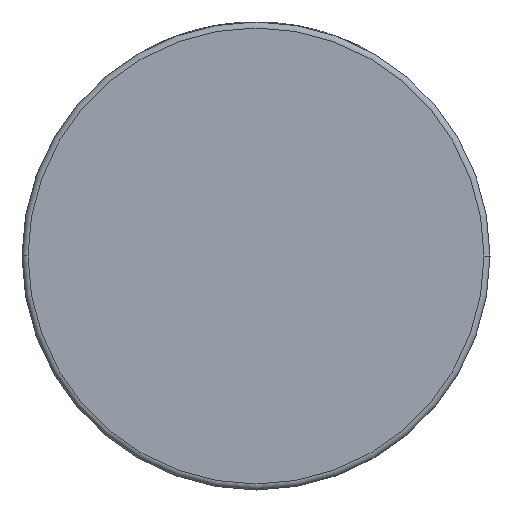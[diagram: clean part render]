
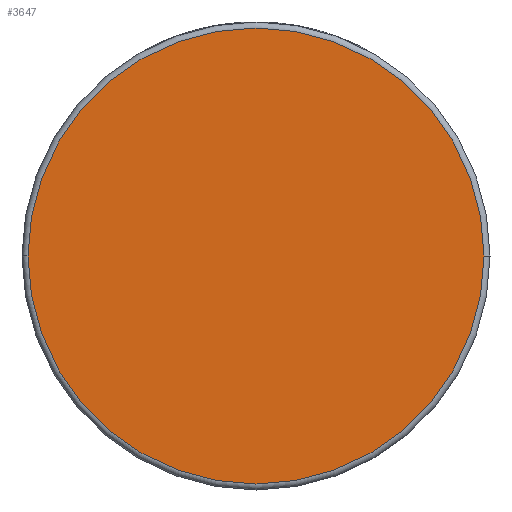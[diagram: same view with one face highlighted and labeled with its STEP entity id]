
A CAD part, front view. The second image highlights one B-rep face of the part: STEP entity #3647.
In plain terms, the highlighted planar face has unit normal (0, -1, 0).
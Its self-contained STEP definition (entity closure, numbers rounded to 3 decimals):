
#42 = DIRECTION ( 'NONE',  ( 0., -1., 0. ) ) ;
#109 = DIRECTION ( 'NONE',  ( 0., -1., 0. ) ) ;
#112 = EDGE_CURVE ( 'NONE', #493, #3935, #4296, .T. ) ;
#286 = DIRECTION ( 'NONE',  ( 1., 0., 0. ) ) ;
#493 = VERTEX_POINT ( 'NONE', #4223 ) ;
#997 = AXIS2_PLACEMENT_3D ( 'NONE', #4097, #109, #2474 ) ;
#1778 = CIRCLE ( 'NONE', #997, 38. ) ;
#1779 = AXIS2_PLACEMENT_3D ( 'NONE', #2718, #42, #3445 ) ;
#2076 = ORIENTED_EDGE ( 'NONE', *, *, #112, .T. ) ;
#2225 = CARTESIAN_POINT ( 'NONE',  ( 39., -26.5, 0. ) ) ;
#2471 = EDGE_CURVE ( 'NONE', #3935, #493, #1778, .T. ) ;
#2474 = DIRECTION ( 'NONE',  ( 1., 0., 0. ) ) ;
#2555 = FACE_OUTER_BOUND ( 'NONE', #2571, .T. ) ;
#2571 = EDGE_LOOP ( 'NONE', ( #2076, #3355 ) ) ;
#2718 = CARTESIAN_POINT ( 'NONE',  ( 0., -26.5, 0. ) ) ;
#2901 = AXIS2_PLACEMENT_3D ( 'NONE', #2225, #3969, #286 ) ;
#3355 = ORIENTED_EDGE ( 'NONE', *, *, #2471, .T. ) ;
#3445 = DIRECTION ( 'NONE',  ( 1., 0., 0. ) ) ;
#3577 = CARTESIAN_POINT ( 'NONE',  ( -38., -26.5, 0. ) ) ;
#3647 = ADVANCED_FACE ( 'NONE', ( #2555 ), #3892, .T. ) ;
#3892 = PLANE ( 'NONE',  #2901 ) ;
#3935 = VERTEX_POINT ( 'NONE', #3577 ) ;
#3969 = DIRECTION ( 'NONE',  ( 0., -1., 0. ) ) ;
#4097 = CARTESIAN_POINT ( 'NONE',  ( 0., -26.5, 0. ) ) ;
#4223 = CARTESIAN_POINT ( 'NONE',  ( 38., -26.5, 0. ) ) ;
#4296 = CIRCLE ( 'NONE', #1779, 38. ) ;
